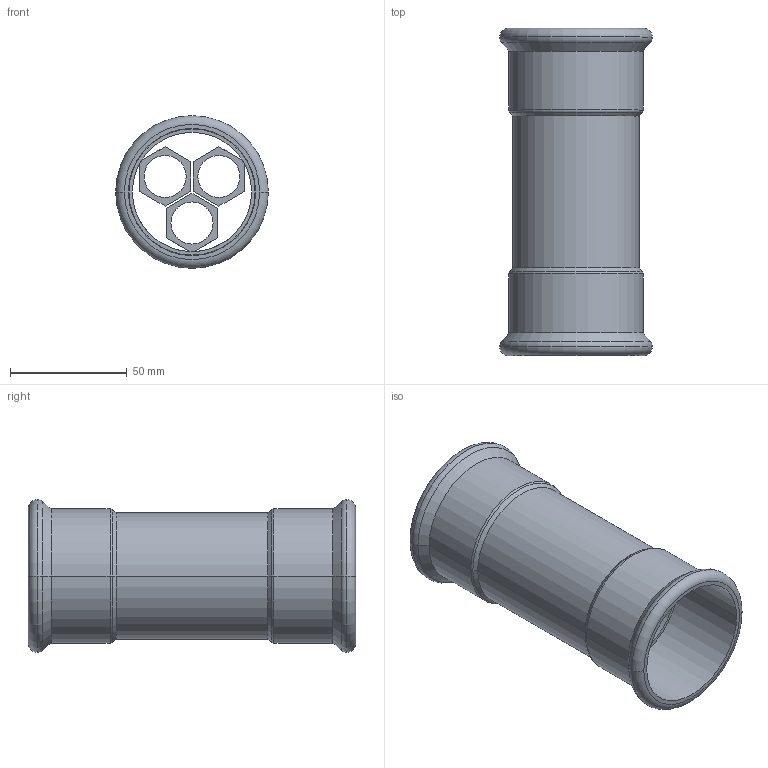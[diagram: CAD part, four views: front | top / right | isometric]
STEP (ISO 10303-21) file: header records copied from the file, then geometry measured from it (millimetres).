
FILE_DESCRIPTION(('OneSpaceDesigner STEP Export'),'2;1');
FILE_NAME('R2703 54x54.stp','2010-06-09T 9:33:48',(''),(''),'OneSpace Designer STEP processor for AP214 (Solid Model)','OneSpace Modeling 15.00A 14-Mar-2007 (C) CoCreate Software GmbH','');
FILE_SCHEMA(('AUTOMOTIVE_DESIGN { 1 0 10303 214 1 1 1 1 }'));
Length unit declared in the file: millimetre
Products named in the file (2): R2703_54x54
Assembly tree (1 placements, depth 2):
  R2703_54x54
    R2703_54x54
Bounding box: 65.3 x 140 x 65.3 mm (x, y, z)
Volume: 48494.1 mm3; surface area: 54602.2 mm2
Topology: 1 solids, 1 shells, 114 faces, 284 edges, 182 vertices
Faces by surface type: plane 60, cylinder 34, torus 12, cone 8
Entity records: 3025 total; most frequent: ORIENTED_EDGE 568, CARTESIAN_POINT 492, DIRECTION 446, EDGE_CURVE 284, VERTEX_POINT 182, VECTOR 174, LINE 174, EDGE_LOOP 138
